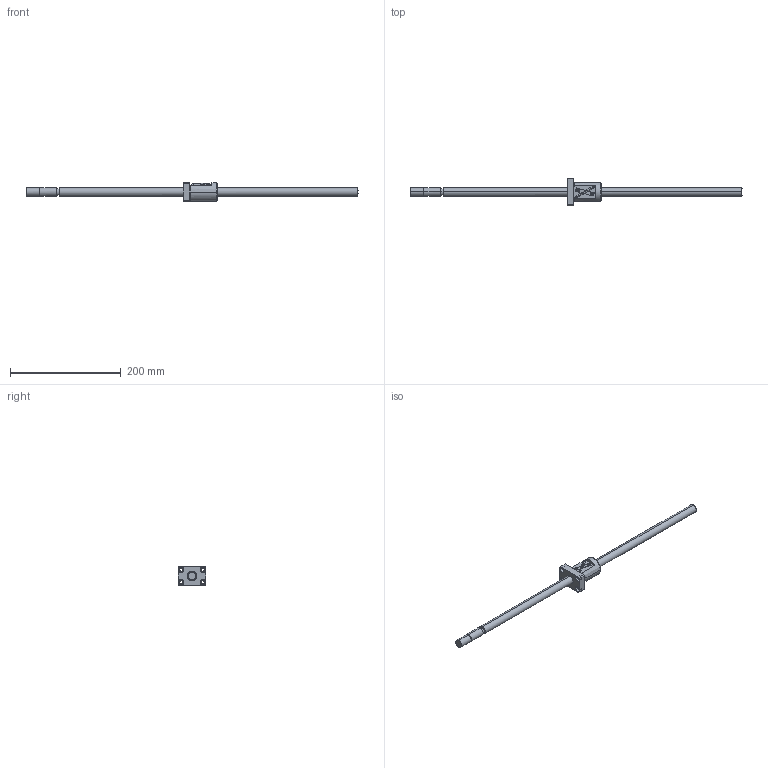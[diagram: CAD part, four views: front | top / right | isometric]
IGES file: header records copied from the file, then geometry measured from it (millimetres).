
Global section: file name: No Iges File Name specified; native system: AutoDesk Inventor R10; preprocessor: AutoDesk Inventor Iges Exporter R10; author: No Author specified; organization: No Organization specified; date: 20101224.141103; units: millimetre
Bounding box: 600 x 50 x 34 mm (x, y, z)
Surface area: 43497.7 mm2 (no closed solid volume)
Topology: 0 solids, 0 shells, 130 faces, 954 edges, 954 vertices
Faces by surface type: bspline 130
